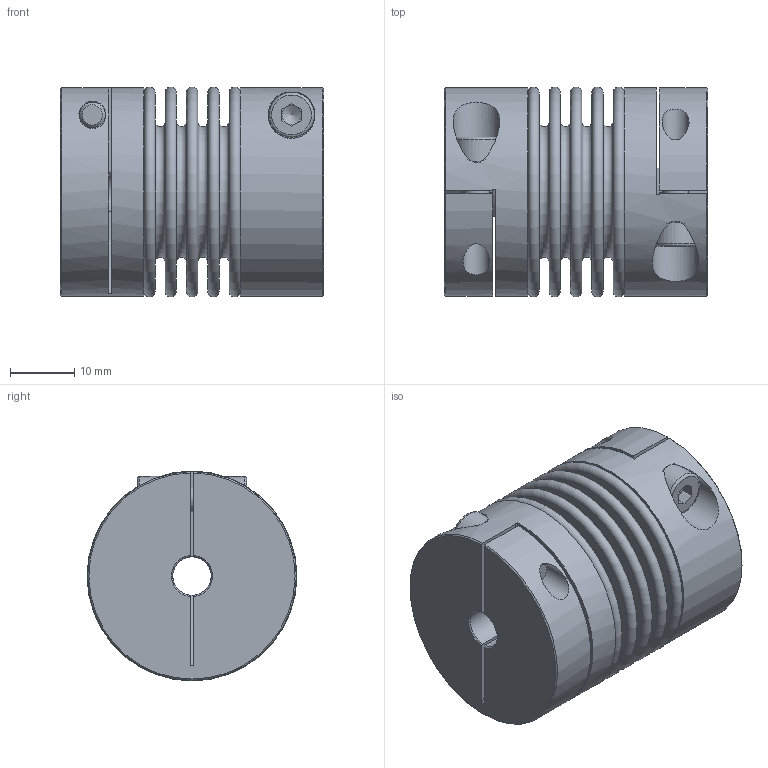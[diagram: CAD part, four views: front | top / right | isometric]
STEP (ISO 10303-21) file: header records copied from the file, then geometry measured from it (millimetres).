
FILE_DESCRIPTION(/* description */ ('STEP AP203'),/* implementation_level */ '2;1');
FILE_NAME(/* name */ 'KB2-45-41-6-6',/* time_stamp */ '2022-09-12T12:41:34+02:00',/* author */ ('License CC BY-ND 4.0'),/* organization */ ('CADENAS'),/* preprocessor_version */ 'ST-DEVELOPER v18.102',/* originating_system */ 'PARTsolutions',/* authorisation */ ' ');
FILE_SCHEMA (('CONFIG_CONTROL_DESIGN'));
Length unit declared in the file: millimetre
Products named in the file (1): KB2-45-41-6-6
Bounding box: 41 x 32.67 x 32.67 mm (x, y, z)
Volume: 21647.3 mm3; surface area: 18959.9 mm2
Topology: 1 solids, 1 shells, 120 faces, 269 edges, 175 vertices
Faces by surface type: plane 68, torus 22, cylinder 20, cone 10
Full cylindrical faces by diameter (mm): 4 x2, 4.2 x2, 6 x2, 7 x2, 21.876 x2, 32.5 x2
Entity records: 3100 total; most frequent: CARTESIAN_POINT 615, DIRECTION 532, ORIENTED_EDGE 420, AXIS2_PLACEMENT_3D 223, EDGE_CURVE 210, FACE_BOUND 188, EDGE_LOOP 186, VERTEX_POINT 158
